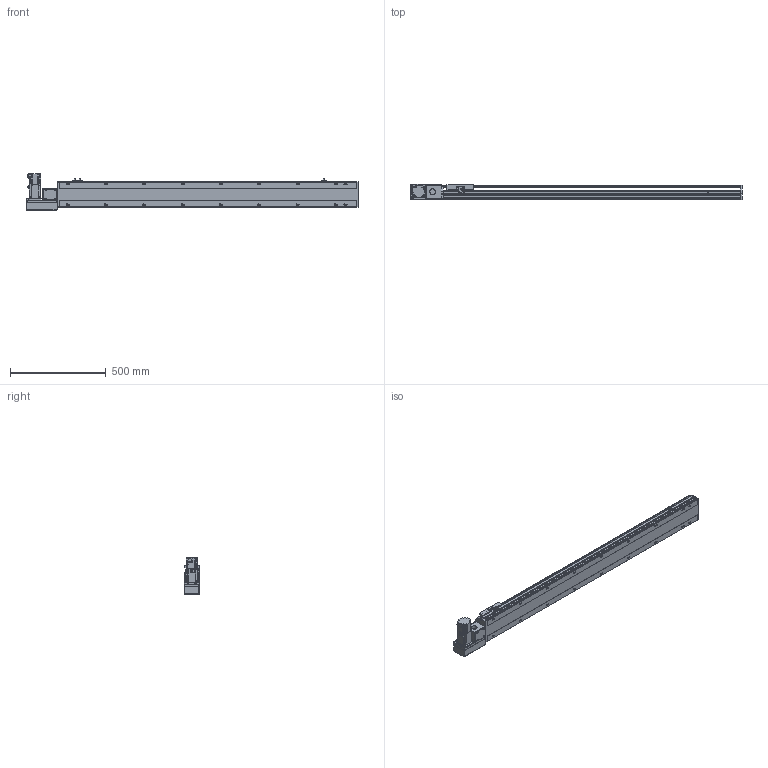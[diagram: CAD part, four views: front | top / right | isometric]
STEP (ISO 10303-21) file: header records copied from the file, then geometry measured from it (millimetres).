
FILE_DESCRIPTION(/* description */ ('STEP AP214'),/* implementation_level */ '2;1');
FILE_NAME(/* name */ 'PBS140-P40-S1300-L-T40-C1-N(0)',/* time_stamp */ '2022-06-06T03:02:00+02:00',/* author */ ('License CC BY-ND 4.0'),/* organization */ ('CADENAS'),/* preprocessor_version */ 'ST-DEVELOPER v18.102',/* originating_system */ 'PARTsolutions',/* authorisation */ ' ');
FILE_SCHEMA (('AUTOMOTIVE_DESIGN {1 0 10303 214 3 1 1}'));
Length unit declared in the file: millimetre
Products named in the file (7): PBS140-P40-S1300-L-T40-C1-N(0); PBS140_sensor; PBS140_plant; PBS140_sliser; T40-p1; PBS140T-L_motors; PBS140-S1300()_body
Assembly tree (8 placements, depth 2):
  PBS140-P40-S1300-L-T40-C1-N(0)
    PBS140_sensor  x3
    PBS140_plant
    PBS140_sliser
    T40-p1
    PBS140T-L_motors
    PBS140-S1300()_body
Bounding box: 1733 x 80.5 x 189.7 mm (x, y, z)
Volume: 7768853.9 mm3; surface area: 1348410.6 mm2
Topology: 8 solids, 8 shells, 1091 faces, 2876 edges, 1879 vertices
Faces by surface type: plane 698, cylinder 339, cone 44, sphere 8, torus 2
Full cylindrical faces by diameter (mm): 3.242 x4, 4 x2, 4.134 x4, 4.4 x8, 4.5 x2, 4.8 x4, 4.917 x26, 5.5 x7, 6 x2, 7 x20, 7.5 x8, 8 x12, 8.5 x4, 10.5 x18, 14 x1, 30 x2, 50 x2
Entity records: 31103 total; most frequent: CARTESIAN_POINT 5777, DIRECTION 5267, ORIENTED_EDGE 4972, EDGE_CURVE 2486, AXIS2_PLACEMENT_3D 1837, VERTEX_POINT 1725, LINE 1593, VECTOR 1593
